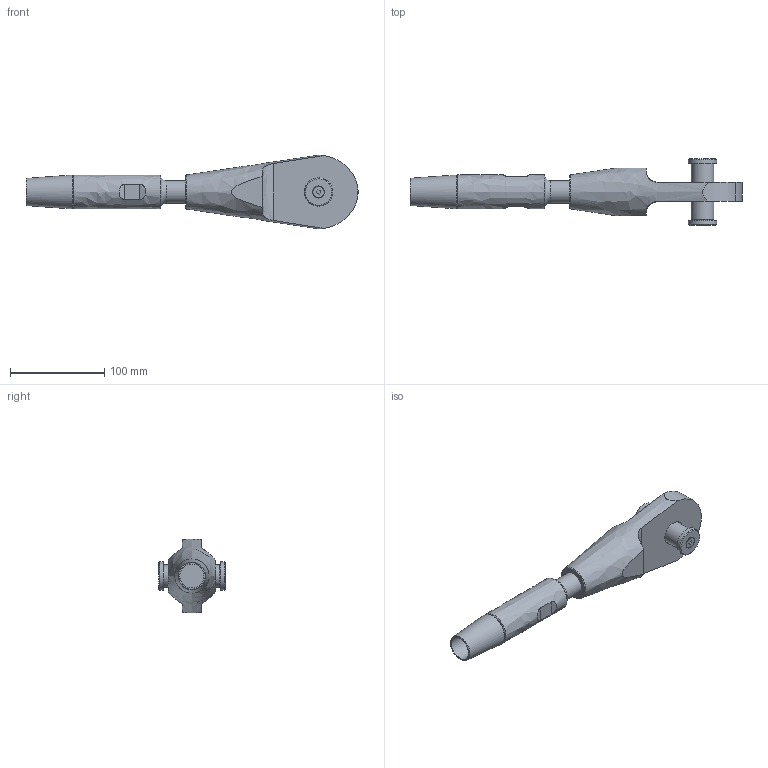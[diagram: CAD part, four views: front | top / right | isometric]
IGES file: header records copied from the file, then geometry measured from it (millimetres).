
Global section: file name: 520-024-OES-ADA; native system: Autodesk Inventor 2020; preprocessor: unknown; author: Administrator; date: 20201007.153416; units: millimetre
Bounding box: 352.95 x 70.72 x 78.15 mm (x, y, z)
Volume: 459902.8 mm3; surface area: 69777.1 mm2
Topology: 6 solids, 6 shells, 63 faces, 151 edges, 105 vertices
Faces by surface type: bspline 63
